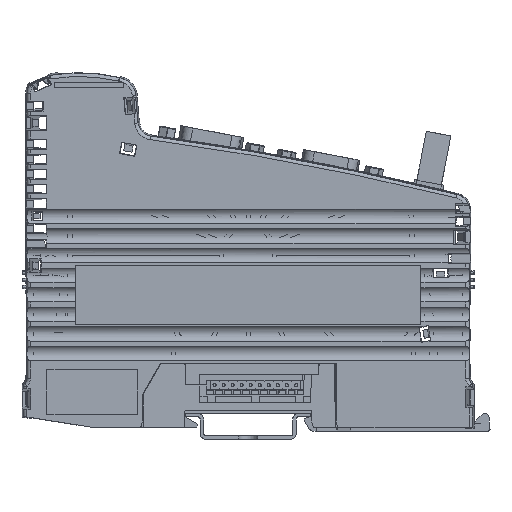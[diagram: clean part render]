
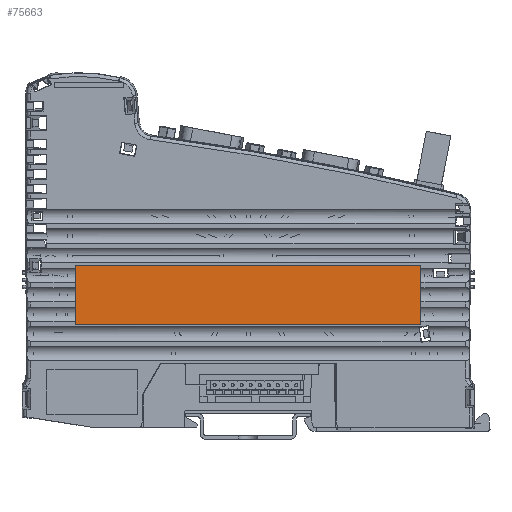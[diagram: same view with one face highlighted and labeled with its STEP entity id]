
A CAD part, left-side view. The second image highlights one B-rep face of the part: STEP entity #75663.
In plain terms, the highlighted planar face has unit normal (-1, 0, 0).
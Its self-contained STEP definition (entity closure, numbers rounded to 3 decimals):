
#13649=ORIENTED_EDGE('',*,*,#31146,.T.);
#13650=ORIENTED_EDGE('',*,*,#31145,.T.);
#13651=ORIENTED_EDGE('',*,*,#31148,.T.);
#13652=ORIENTED_EDGE('',*,*,#31140,.T.);
#13653=ORIENTED_EDGE('',*,*,#31142,.T.);
#13654=ORIENTED_EDGE('',*,*,#31143,.T.);
#13655=ORIENTED_EDGE('',*,*,#31149,.T.);
#13656=ORIENTED_EDGE('',*,*,#31150,.T.);
#13657=ORIENTED_EDGE('',*,*,#31151,.T.);
#13658=ORIENTED_EDGE('',*,*,#31147,.T.);
#31140=EDGE_CURVE('',#40632,#39766,#48857,.T.);
#31142=EDGE_CURVE('',#39766,#39773,#48859,.T.);
#31143=EDGE_CURVE('',#39773,#39776,#48860,.T.);
#31145=EDGE_CURVE('',#40629,#40633,#48862,.T.);
#31146=EDGE_CURVE('',#40630,#40629,#48863,.T.);
#31147=EDGE_CURVE('',#40631,#40630,#48864,.T.);
#31148=EDGE_CURVE('',#40633,#40632,#48865,.T.);
#31149=EDGE_CURVE('',#39776,#40634,#48866,.T.);
#31150=EDGE_CURVE('',#40634,#40635,#48867,.T.);
#31151=EDGE_CURVE('',#40635,#40631,#48868,.T.);
#39766=VERTEX_POINT('',#125315);
#39773=VERTEX_POINT('',#125420);
#39776=VERTEX_POINT('',#125527);
#40629=VERTEX_POINT('',#130386);
#40630=VERTEX_POINT('',#130390);
#40631=VERTEX_POINT('',#130394);
#40632=VERTEX_POINT('',#130399);
#40633=VERTEX_POINT('',#130407);
#40634=VERTEX_POINT('',#130416);
#40635=VERTEX_POINT('',#130418);
#48857=LINE('',#130398,#57411);
#48859=LINE('',#130402,#57413);
#48860=LINE('',#130404,#57414);
#48862=LINE('',#130408,#57416);
#48863=LINE('',#130410,#57417);
#48864=LINE('',#130412,#57418);
#48865=LINE('',#130414,#57419);
#48866=LINE('',#130415,#57420);
#48867=LINE('',#130417,#57421);
#48868=LINE('',#130419,#57422);
#57411=VECTOR('',#104947,1000.);
#57413=VECTOR('',#104951,1000.);
#57414=VECTOR('',#104954,1000.);
#57416=VECTOR('',#104958,1000.);
#57417=VECTOR('',#104961,1000.);
#57418=VECTOR('',#104964,1000.);
#57419=VECTOR('',#104967,1000.);
#57420=VECTOR('',#104968,1000.);
#57421=VECTOR('',#104969,1000.);
#57422=VECTOR('',#104970,1000.);
#63730=EDGE_LOOP('',(#13649,#13650,#13651,#13652,#13653,#13654,#13655,#13656,
#13657,#13658));
#68280=FACE_BOUND('',#63730,.T.);
#72316=PLANE('',#92551);
#75663=ADVANCED_FACE('',(#68280),#72316,.T.);
#92551=AXIS2_PLACEMENT_3D('',#130413,#104965,#104966);
#104947=DIRECTION('',(0.,0.,-1.));
#104951=DIRECTION('',(0.,0.,-1.));
#104954=DIRECTION('',(0.,0.,-1.));
#104958=DIRECTION('',(0.,0.,1.));
#104961=DIRECTION('',(0.,0.,1.));
#104964=DIRECTION('',(0.,0.,1.));
#104965=DIRECTION('',(-1.,0.,0.));
#104966=DIRECTION('',(0.,-1.,0.));
#104967=DIRECTION('',(0.,1.,0.));
#104968=DIRECTION('',(0.,0.,-1.));
#104969=DIRECTION('',(0.,-1.,0.));
#104970=DIRECTION('',(0.,0.,1.));
#125315=CARTESIAN_POINT('',(-11.5,48.483,42.8));
#125420=CARTESIAN_POINT('',(-11.5,48.483,37.3));
#125527=CARTESIAN_POINT('',(-11.5,48.483,31.8));
#130386=CARTESIAN_POINT('',(-11.5,-48.483,42.8));
#130390=CARTESIAN_POINT('',(-11.5,-48.483,37.3));
#130394=CARTESIAN_POINT('',(-11.5,-48.483,31.8));
#130398=CARTESIAN_POINT('',(-11.5,48.483,29.));
#130399=CARTESIAN_POINT('',(-11.5,48.483,45.483));
#130402=CARTESIAN_POINT('',(-11.5,48.483,29.));
#130404=CARTESIAN_POINT('',(-11.5,48.483,29.));
#130407=CARTESIAN_POINT('',(-11.5,-48.483,45.483));
#130408=CARTESIAN_POINT('',(-11.5,-48.483,29.));
#130410=CARTESIAN_POINT('',(-11.5,-48.483,29.));
#130412=CARTESIAN_POINT('',(-11.5,-48.483,29.));
#130413=CARTESIAN_POINT('',(-11.5,48.5,29.));
#130414=CARTESIAN_POINT('',(-11.5,48.5,45.483));
#130415=CARTESIAN_POINT('',(-11.5,48.483,29.));
#130416=CARTESIAN_POINT('',(-11.5,48.483,29.017));
#130417=CARTESIAN_POINT('',(-11.5,48.5,29.017));
#130418=CARTESIAN_POINT('',(-11.5,-48.483,29.017));
#130419=CARTESIAN_POINT('',(-11.5,-48.483,29.));
